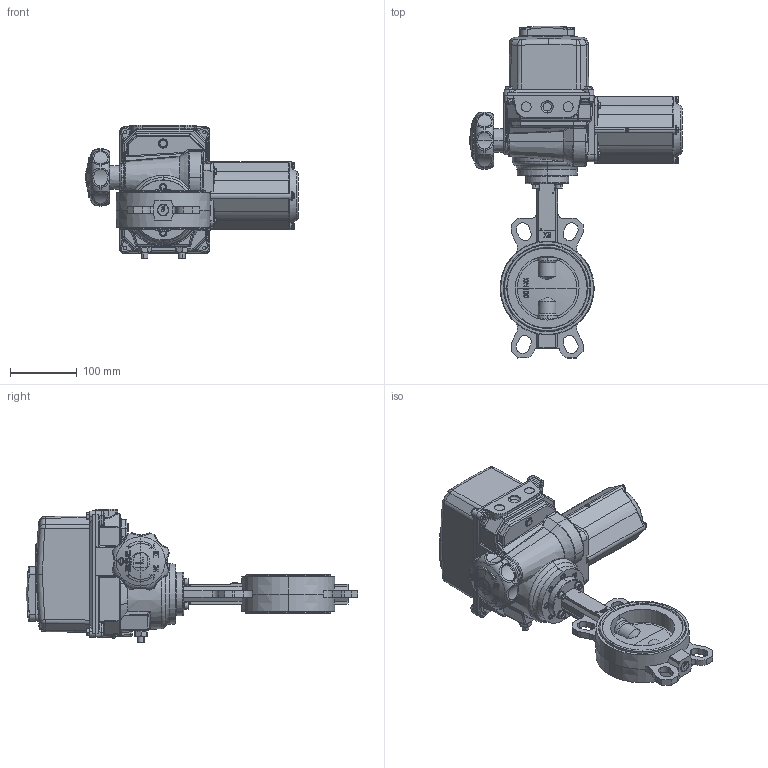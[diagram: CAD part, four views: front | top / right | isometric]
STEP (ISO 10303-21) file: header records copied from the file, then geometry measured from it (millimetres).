
FILE_DESCRIPTION (( 'STEP AP203' ), '1' );
FILE_NAME ('VPI-B04 DN100.step', '2016-09-29T14:41:00', ( 'TECOFI' ), ( '' ), 'SwSTEP 2.0', 'SolidWorks 2014', '' );
FILE_SCHEMA (( 'CONFIG_CONTROL_DESIGN' ));
Products named in the file (1): VPI-B04 DN100
Bounding box: 319.25 x 498.7 x 199.8 mm (x, y, z)
Volume: 5580744.6 mm3; surface area: 380688.1 mm2
Topology: 14 solids, 14 shells, 2360 faces, 6082 edges, 3858 vertices
Faces by surface type: plane 1065, bspline 470, cylinder 460, torus 130, cone 127, sphere 108
Entity records: 99039 total; most frequent: CARTESIAN_POINT 44755, ORIENTED_EDGE 12070, DIRECTION 10321, EDGE_CURVE 6035, VERTEX_POINT 3858, AXIS2_PLACEMENT_3D 3846, VECTOR 2629, LINE 2629
